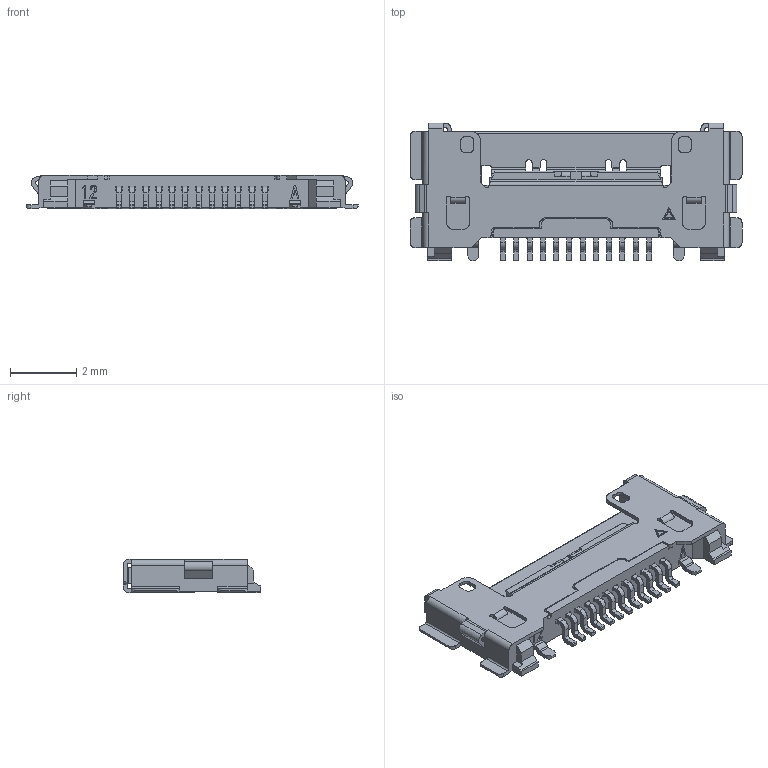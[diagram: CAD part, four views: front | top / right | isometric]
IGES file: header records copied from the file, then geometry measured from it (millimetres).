
Start section: SolidWorks IGES file using analytic representation for surfaces
Global section: file name: Q:\CAB-CA‹¤—L\3Dƒ‚ƒfƒ‹\IGES\20525-x12E-02C RECE ASS'Y IGES R7 ALL.IGS; native system: SolidWorks 2011; preprocessor: SolidWorks 2011; author: 04446; date: 141002.180525; units: millimetre
Bounding box: 10 x 4.15 x 1 mm (x, y, z)
Surface area: 123.3 mm2 (no closed solid volume)
Topology: 0 solids, 0 shells, 690 faces, 4953 edges, 4953 vertices
Faces by surface type: bspline 456, revolution 234
